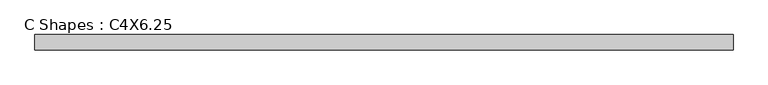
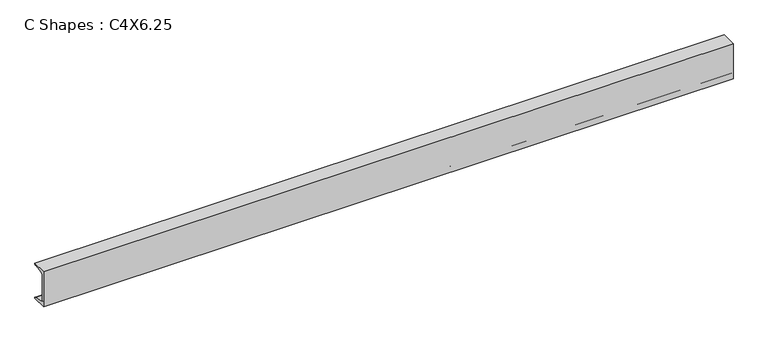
"""IFC4 building model written with IfcOpenShell, lengths in millimetres: beam geometry, C Shapes : C4X6.25."""

from ifc_helpers import new_model, si_unit, point, frame, frame_2d, origin, place, context, project, spatial, polyline, circle_curve, trimmed, segment, composite_curve, outline, extrude, source, transform, mapped, element, save


def c_shapes_c4x6_25_93041276(model_context):
    return source(origin(), model_context, "Body", "SweptSolid", [
        extrude(outline(composite_curve([segment(polyline([(-11.049, 50.8), (30.861, 50.8), (30.861, 49.7865772)]), True, "CONTINUOUS"), segment(trimmed(circle_curve(frame_2d((27.4066, 49.7865772)), 3.4544), [point((30.861, 49.7865772))], [point((27.9743618, 46.379155))], False, "CARTESIAN"), True, "CONTINUOUS"), segment(polyline([(27.9743618, 46.379155), (0.9980765, 41.8842311)]), True, "CONTINUOUS"), segment(trimmed(circle_curve(frame_2d((2.1336, 35.0693868)), 6.9088), [point((0.9980765, 41.8842311))], [point((-4.7752, 35.0693868))], True, "CARTESIAN"), True, "CONTINUOUS"), segment(polyline([(-4.7752, 35.0693868), (-4.7752, -35.0693868)]), True, "CONTINUOUS"), segment(trimmed(circle_curve(frame_2d((2.1336, -35.0693868)), 6.9088), [point((-4.7752, -35.0693868))], [point((0.9980765, -41.8842311))], True, "CARTESIAN"), True, "CONTINUOUS"), segment(polyline([(0.9980765, -41.8842311), (27.9743618, -46.379155)]), True, "CONTINUOUS"), segment(trimmed(circle_curve(frame_2d((27.4066, -49.7865772)), 3.4544), [point((27.9743618, -46.379155))], [point((30.861, -49.7865772))], False, "CARTESIAN"), True, "CONTINUOUS"), segment(polyline([(30.861, -49.7865772), (30.861, -50.8), (-11.049, -50.8), (-11.049, 50.8)]), True, "CONTINUOUS")], self_intersect=False)), frame((-948.944, 0.0, 0.0), z_axis=(1.0, 0.0, 0.0), x_axis=(0.0, 1.0, 0.0)), (0.0, 0.0, 1.0), 1897.888),
    ])


if __name__ == "__main__":
    model = new_model("IFC4")
    model_context = context("Model", 3, world=origin())
    ifc_project = project(units=[si_unit("LENGTHUNIT", "METRE", prefix="MILLI")], contexts=[model_context])
    site = spatial("IfcSite", under=ifc_project)
    building = spatial("IfcBuilding", under=site)
    placement = place(None, origin())
    c_shapes_c4x6_25_shape = c_shapes_c4x6_25_93041276(model_context)
    element("IfcBeam", 1, ObjectType="C Shapes : C4X6.25", at=placement, inside=building, context=model_context, shape_type="MappedRepresentation", body=[
        mapped(c_shapes_c4x6_25_shape, transform((0.0, 0.0, 0.0), x_axis=(1.0, 0.0, 0.0), y_axis=(0.0, 1.0, 0.0), z_axis=(0.0, 0.0, 1.0))),
    ])
    save(model, "model.ifc")
